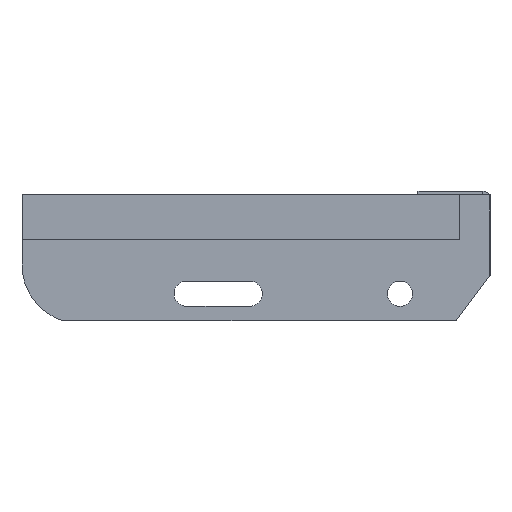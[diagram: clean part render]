
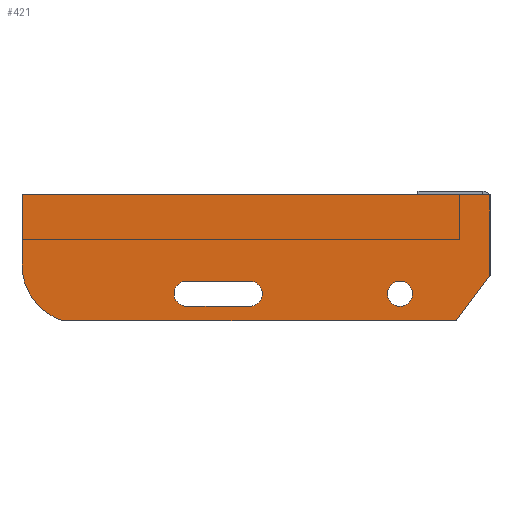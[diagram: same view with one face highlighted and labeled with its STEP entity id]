
A CAD part, left-side view. The second image highlights one B-rep face of the part: STEP entity #421.
In plain terms, the highlighted planar face has unit normal (-1, 0, 0) as drawn and (0, 0, 1) by its records, which use the part's own axes.
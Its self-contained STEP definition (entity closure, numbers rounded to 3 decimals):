
#4 = CIRCLE ( 'NONE', #1674, 7. ) ;
#42 = DIRECTION ( 'NONE',  ( 0., 0., 1. ) ) ;
#69 = VECTOR ( 'NONE', #1530, 1000. ) ;
#87 = VERTEX_POINT ( 'NONE', #1738 ) ;
#154 = CARTESIAN_POINT ( 'NONE',  ( 0., -45., 3. ) ) ;
#161 = ORIENTED_EDGE ( 'NONE', *, *, #933, .F. ) ;
#216 = CARTESIAN_POINT ( 'NONE',  ( -175.5, -55., 3. ) ) ;
#225 = ORIENTED_EDGE ( 'NONE', *, *, #1654, .F. ) ;
#226 = DIRECTION ( 'NONE',  ( 0., -1., 0. ) ) ;
#235 = VERTEX_POINT ( 'NONE', #1195 ) ;
#243 = DIRECTION ( 'NONE',  ( 1., 0., 0. ) ) ;
#246 = LINE ( 'NONE', #539, #626 ) ;
#252 = CARTESIAN_POINT ( 'NONE',  ( -168.5, -48., 3. ) ) ;
#286 = EDGE_LOOP ( 'NONE', ( #1415, #1436, #1553, #926, #397, #638 ) ) ;
#308 = VERTEX_POINT ( 'NONE', #430 ) ;
#316 = LINE ( 'NONE', #824, #1474 ) ;
#329 = VECTOR ( 'NONE', #695, 1000. ) ;
#367 = VERTEX_POINT ( 'NONE', #2018 ) ;
#380 = CARTESIAN_POINT ( 'NONE',  ( -168.5, -55., 3. ) ) ;
#381 = VERTEX_POINT ( 'NONE', #1398 ) ;
#397 = ORIENTED_EDGE ( 'NONE', *, *, #1073, .T. ) ;
#421 = ADVANCED_FACE ( 'NONE', ( #1565, #1868, #1072 ), #1999, .T. ) ;
#430 = CARTESIAN_POINT ( 'NONE',  ( -237.26, -70., 3. ) ) ;
#436 = EDGE_CURVE ( 'NONE', #1965, #1847, #908, .T. ) ;
#451 = CARTESIAN_POINT ( 'NONE',  ( -227.5, -39., 3. ) ) ;
#461 = AXIS2_PLACEMENT_3D ( 'NONE', #380, #1333, #243 ) ;
#479 = CARTESIAN_POINT ( 'NONE',  ( -50., -55., 3. ) ) ;
#489 = VERTEX_POINT ( 'NONE', #1406 ) ;
#493 = ORIENTED_EDGE ( 'NONE', *, *, #1932, .F. ) ;
#498 = DIRECTION ( 'NONE',  ( 0., 0., 1. ) ) ;
#522 = ORIENTED_EDGE ( 'NONE', *, *, #615, .F. ) ;
#525 = VERTEX_POINT ( 'NONE', #1248 ) ;
#526 = AXIS2_PLACEMENT_3D ( 'NONE', #551, #1813, #835 ) ;
#534 = LINE ( 'NONE', #1006, #329 ) ;
#539 = CARTESIAN_POINT ( 'NONE',  ( -168.5, -48., 3. ) ) ;
#551 = CARTESIAN_POINT ( 'NONE',  ( -227.5, -39., 3. ) ) ;
#563 = CARTESIAN_POINT ( 'NONE',  ( 0., 0., 3. ) ) ;
#615 = EDGE_CURVE ( 'NONE', #804, #235, #719, .T. ) ;
#626 = VECTOR ( 'NONE', #1641, 1000. ) ;
#638 = ORIENTED_EDGE ( 'NONE', *, *, #436, .T. ) ;
#684 = CARTESIAN_POINT ( 'NONE',  ( -18.839, -70., 3. ) ) ;
#695 = DIRECTION ( 'NONE',  ( 1., 0., 0. ) ) ;
#719 = CIRCLE ( 'NONE', #817, 7. ) ;
#755 = DIRECTION ( 'NONE',  ( 0., 0., 1. ) ) ;
#796 = EDGE_CURVE ( 'NONE', #235, #1312, #246, .T. ) ;
#804 = VERTEX_POINT ( 'NONE', #1952 ) ;
#817 = AXIS2_PLACEMENT_3D ( 'NONE', #1610, #42, #960 ) ;
#824 = CARTESIAN_POINT ( 'NONE',  ( 0., 0., 3. ) ) ;
#835 = DIRECTION ( 'NONE',  ( 1., 0., 0. ) ) ;
#843 = CARTESIAN_POINT ( 'NONE',  ( 0., -45., 3. ) ) ;
#858 = EDGE_CURVE ( 'NONE', #87, #367, #1660, .T. ) ;
#908 = LINE ( 'NONE', #154, #1509 ) ;
#910 = VECTOR ( 'NONE', #966, 1000. ) ;
#926 = ORIENTED_EDGE ( 'NONE', *, *, #1895, .T. ) ;
#933 = EDGE_CURVE ( 'NONE', #1312, #1276, #1544, .T. ) ;
#935 = DIRECTION ( 'NONE',  ( 0., 1., 0. ) ) ;
#960 = DIRECTION ( 'NONE',  ( 1., 0., 0. ) ) ;
#966 = DIRECTION ( 'NONE',  ( -1., 0., 0. ) ) ;
#977 = DIRECTION ( 'NONE',  ( 1., 0., 0. ) ) ;
#1006 = CARTESIAN_POINT ( 'NONE',  ( -168.5, -62., 3. ) ) ;
#1055 = DIRECTION ( 'NONE',  ( 1., 0., 0. ) ) ;
#1067 = ORIENTED_EDGE ( 'NONE', *, *, #1744, .F. ) ;
#1072 = FACE_BOUND ( 'NONE', #1887, .T. ) ;
#1073 = EDGE_CURVE ( 'NONE', #308, #1965, #1997, .T. ) ;
#1075 = CIRCLE ( 'NONE', #1203, 7. ) ;
#1111 = CIRCLE ( 'NONE', #461, 7. ) ;
#1195 = CARTESIAN_POINT ( 'NONE',  ( -133.5, -48., 3. ) ) ;
#1203 = AXIS2_PLACEMENT_3D ( 'NONE', #479, #498, #977 ) ;
#1248 = CARTESIAN_POINT ( 'NONE',  ( -168.5, -62., 3. ) ) ;
#1271 = CIRCLE ( 'NONE', #526, 32.5 ) ;
#1276 = VERTEX_POINT ( 'NONE', #216 ) ;
#1291 = CARTESIAN_POINT ( 'NONE',  ( -168.5, -55., 3. ) ) ;
#1312 = VERTEX_POINT ( 'NONE', #252 ) ;
#1333 = DIRECTION ( 'NONE',  ( 0., 0., 1. ) ) ;
#1344 = AXIS2_PLACEMENT_3D ( 'NONE', #451, #1694, #1055 ) ;
#1363 = DIRECTION ( 'NONE',  ( 1., 0., 0. ) ) ;
#1398 = CARTESIAN_POINT ( 'NONE',  ( -43., -55., 3. ) ) ;
#1406 = CARTESIAN_POINT ( 'NONE',  ( -57., -55., 3. ) ) ;
#1415 = ORIENTED_EDGE ( 'NONE', *, *, #1811, .T. ) ;
#1430 = EDGE_CURVE ( 'NONE', #1276, #525, #1111, .T. ) ;
#1433 = LINE ( 'NONE', #1728, #910 ) ;
#1434 = VERTEX_POINT ( 'NONE', #563 ) ;
#1436 = ORIENTED_EDGE ( 'NONE', *, *, #1772, .T. ) ;
#1474 = VECTOR ( 'NONE', #935, 1000. ) ;
#1509 = VECTOR ( 'NONE', #1684, 1000. ) ;
#1530 = DIRECTION ( 'NONE',  ( 1., 0., 0. ) ) ;
#1544 = CIRCLE ( 'NONE', #1706, 7. ) ;
#1546 = DIRECTION ( 'NONE',  ( 0., 0., 1. ) ) ;
#1553 = ORIENTED_EDGE ( 'NONE', *, *, #858, .T. ) ;
#1556 = CARTESIAN_POINT ( 'NONE',  ( -18.839, -70., 3. ) ) ;
#1565 = FACE_OUTER_BOUND ( 'NONE', #286, .T. ) ;
#1610 = CARTESIAN_POINT ( 'NONE',  ( -133.5, -55., 3. ) ) ;
#1631 = ORIENTED_EDGE ( 'NONE', *, *, #1430, .F. ) ;
#1632 = CARTESIAN_POINT ( 'NONE',  ( -260., 0., 3. ) ) ;
#1641 = DIRECTION ( 'NONE',  ( -1., 0., 0. ) ) ;
#1654 = EDGE_CURVE ( 'NONE', #489, #381, #4, .T. ) ;
#1660 = LINE ( 'NONE', #1632, #1934 ) ;
#1674 = AXIS2_PLACEMENT_3D ( 'NONE', #1992, #1546, #1698 ) ;
#1684 = DIRECTION ( 'NONE',  ( 0.602, 0.799, 0. ) ) ;
#1694 = DIRECTION ( 'NONE',  ( 0., 0., 1. ) ) ;
#1698 = DIRECTION ( 'NONE',  ( 1., 0., 0. ) ) ;
#1706 = AXIS2_PLACEMENT_3D ( 'NONE', #1291, #755, #1363 ) ;
#1709 = EDGE_LOOP ( 'NONE', ( #225, #1067 ) ) ;
#1728 = CARTESIAN_POINT ( 'NONE',  ( 0., 0., 3. ) ) ;
#1738 = CARTESIAN_POINT ( 'NONE',  ( -260., 0., 3. ) ) ;
#1744 = EDGE_CURVE ( 'NONE', #381, #489, #1075, .T. ) ;
#1772 = EDGE_CURVE ( 'NONE', #1434, #87, #1433, .T. ) ;
#1811 = EDGE_CURVE ( 'NONE', #1847, #1434, #316, .T. ) ;
#1813 = DIRECTION ( 'NONE',  ( 0., 0., 1. ) ) ;
#1847 = VERTEX_POINT ( 'NONE', #843 ) ;
#1868 = FACE_BOUND ( 'NONE', #1709, .T. ) ;
#1887 = EDGE_LOOP ( 'NONE', ( #493, #1631, #161, #2004, #522 ) ) ;
#1895 = EDGE_CURVE ( 'NONE', #367, #308, #1271, .T. ) ;
#1932 = EDGE_CURVE ( 'NONE', #525, #804, #534, .T. ) ;
#1934 = VECTOR ( 'NONE', #226, 1000. ) ;
#1952 = CARTESIAN_POINT ( 'NONE',  ( -133.5, -62., 3. ) ) ;
#1965 = VERTEX_POINT ( 'NONE', #684 ) ;
#1992 = CARTESIAN_POINT ( 'NONE',  ( -50., -55., 3. ) ) ;
#1997 = LINE ( 'NONE', #1556, #69 ) ;
#1999 = PLANE ( 'NONE',  #1344 ) ;
#2004 = ORIENTED_EDGE ( 'NONE', *, *, #796, .F. ) ;
#2018 = CARTESIAN_POINT ( 'NONE',  ( -260., -39., 3. ) ) ;
